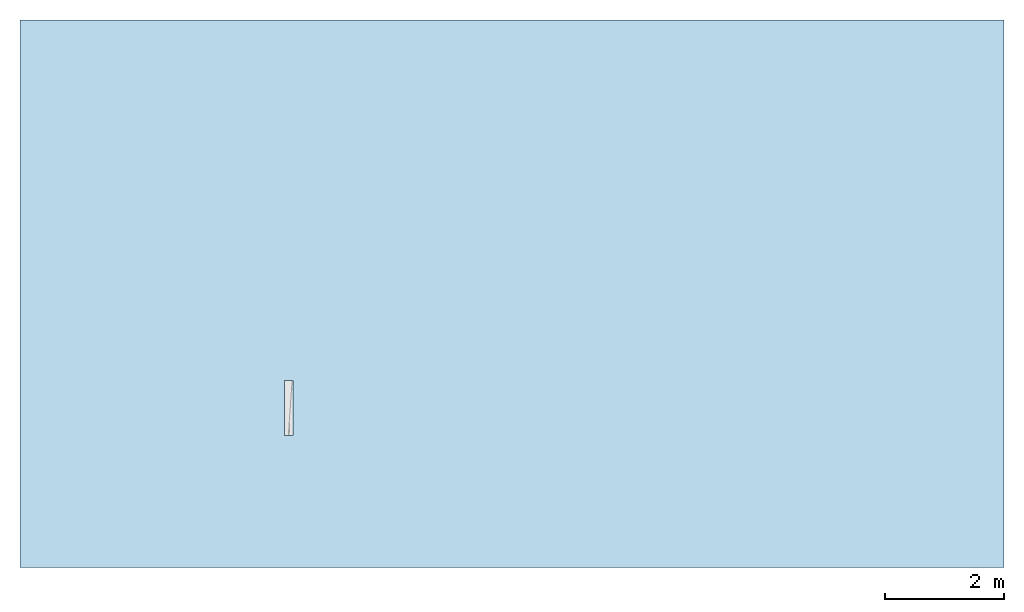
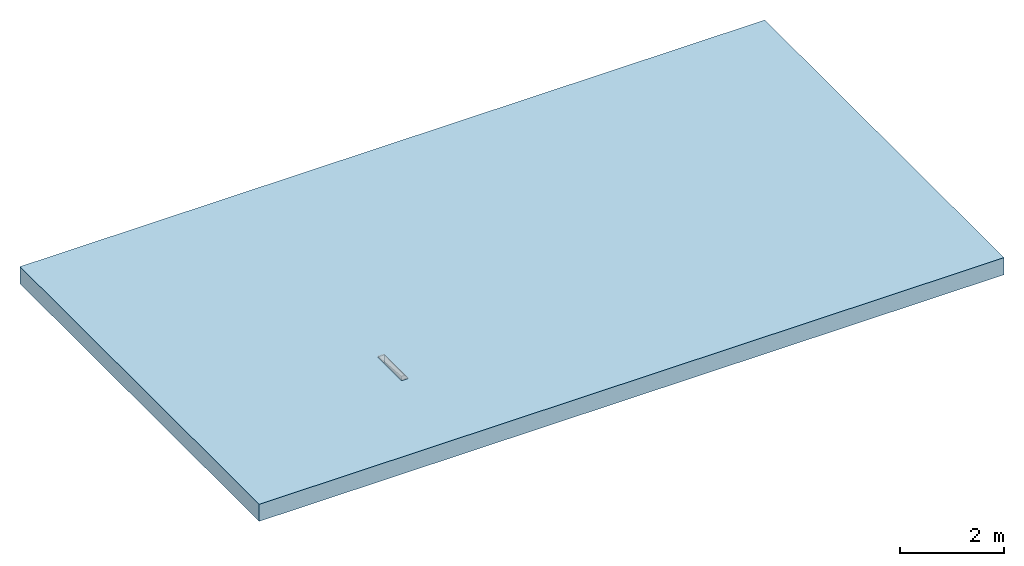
# One storey, part 1 of 2: 1 slab, 2 openings.
"""IFC2X3 building model written with IfcOpenShell, lengths in millimetres."""

from ifc_helpers import new_model, entity, si_unit, converted_unit, direction, frame, frame_2d, origin, origin_2d_with_axis, place, context, subcontext, project, spatial, rectangle, extrude, material, layer, layer_set, layer_usage, element, save


model = new_model("IFC2X3")

# Units and contexts
model_context = context("Model", 3, precision=1e-06, world=origin(), true_north=direction((2.0, 6.12303176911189e-17, 1.0)))
context_of_model = context(None, 3, precision=1e-06, world=origin(), true_north=direction((2.0, 6.12303176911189e-17, 1.0)))
body_context = subcontext(model_context, "Body", "Model", "MODEL_VIEW")
ifc_project = project(units=[si_unit("LENGTHUNIT", "METRE", prefix="MILLI"), si_unit("AREAUNIT", "SQUARE_METRE", prefix="MILLI"), si_unit("VOLUMEUNIT", "CUBIC_METRE", prefix="MILLI"), converted_unit("PLANEANGLEUNIT", "DEGREE", entity("IfcRatioMeasure", 0.0174532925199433), si_unit("PLANEANGLEUNIT", "RADIAN"), dimensions=[0, 0, 0, 0, 0, 0, 0]), si_unit("TIMEUNIT", "SECOND")], contexts=[model_context, context_of_model])

# Site, building, storey
site_placement = place(None, origin())
site = spatial("IfcSite", under=ifc_project, at=site_placement, Name="Default", CompositionType="ELEMENT")
building_placement = place(site_placement, origin())
building = spatial("IfcBuilding", under=site, at=building_placement, CompositionType="ELEMENT")
storey_placement = place(building_placement, origin())
storey = spatial("IfcBuildingStorey", under=building, at=storey_placement, Name="Level 1", CompositionType="ELEMENT", Elevation=0.0)

# Slab, openings
ifc_material = material(Name="Plant")
ifc_layer = layer(ifc_material, 400.0)
ifc_layer_set = layer_set([ifc_layer], Name="Floor:Generic Floor - 400mm")
ifc_layer_usage = layer_usage(ifc_layer_set, "AXIS3", "POSITIVE", 0.0)
slab_placement = place(storey_placement, frame((-17967.0691536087, -3738.31688706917, -400.0)))
slab = element("IfcSlab", 1, at=slab_placement, inside=storey, material=ifc_layer_usage, Name="Floor:Generic Floor - 400mm", ObjectType="Floor:Generic Floor - 400mm", PredefinedType="FLOOR", context=body_context, shape_type="SweptSolid", body=[
    extrude(rectangle(XDim=9180.0, YDim=16500.0, at=frame_2d((0.0, 0.0), x_axis=(0.0, -1.0))), frame((8250.0, 4590.0, 400.0), z_axis=(0.0, 0.0, -1.0), x_axis=(-1.0, 0.0, 0.0)), (0.0, 0.0, 1.0), 400.0),
])
opening_1_placement = place(slab_placement, origin())
element("IfcOpeningElement", 2, at=opening_1_placement, cuts=slab, ObjectType="Recess", context=body_context, shape_type="SweptSolid", body=[
    extrude(rectangle(XDim=280.350941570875, YDim=1.99999999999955, at=origin_2d_with_axis()), frame((4432.71857473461, 2466.43329610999, -1754.0), z_axis=(0.0, 0.0, 1.0), x_axis=(0.0, 1.0, 0.0)), (0.0, 0.0, 1.0), 279.000000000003),
])
opening_2_placement = place(slab_placement, origin())
element("IfcOpeningElement", 3, at=opening_2_placement, cuts=slab, ObjectType="Recess", context=body_context, shape_type="SweptSolid", body=[
    extrude(rectangle(XDim=149.999999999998, YDim=915.0, at=origin_2d_with_axis()), frame((4506.71857473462, 2673.75782532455, 220.0), z_axis=(0.0, 0.0, 1.0), x_axis=(-1.0, 0.0, 0.0)), (0.0, 0.0, 1.0), 180.0),
])

save(model, "model.ifc")
